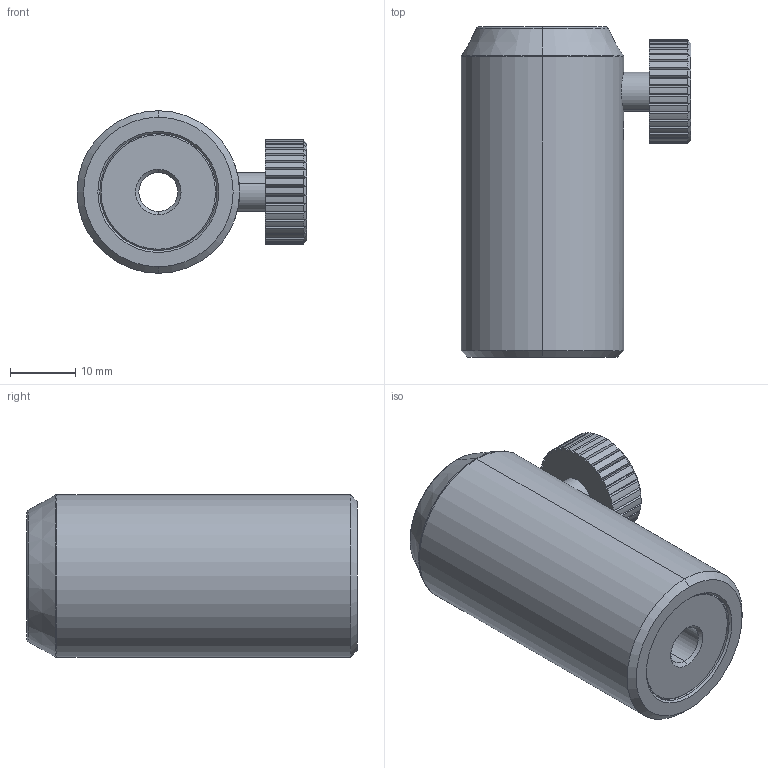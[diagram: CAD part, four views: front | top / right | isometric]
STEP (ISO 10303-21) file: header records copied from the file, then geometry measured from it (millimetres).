
FILE_DESCRIPTION (( 'STEP AP203' ), '1' );
FILE_NAME ('PH-2.STEP', '2016-11-29T08:40:58', ( '' ), ( '' ), 'SwSTEP 2.0', 'SolidWorks 2012', '' );
FILE_SCHEMA (( 'CONFIG_CONTROL_DESIGN' ));
Length unit declared in the file: millimetre
Products named in the file (1): PH-2
Bounding box: 35.36 x 50.8 x 25 mm (x, y, z)
Volume: 19734.2 mm3; surface area: 9252 mm2
Topology: 6 solids, 6 shells, 218 faces, 572 edges, 372 vertices
Faces by surface type: plane 113, cylinder 78, cone 18, torus 4, sphere 3, bspline 2
Entity records: 9130 total; most frequent: CARTESIAN_POINT 3733, ORIENTED_EDGE 1132, DIRECTION 1077, EDGE_CURVE 566, AXIS2_PLACEMENT_3D 395, VERTEX_POINT 369, LINE 287, VECTOR 287
